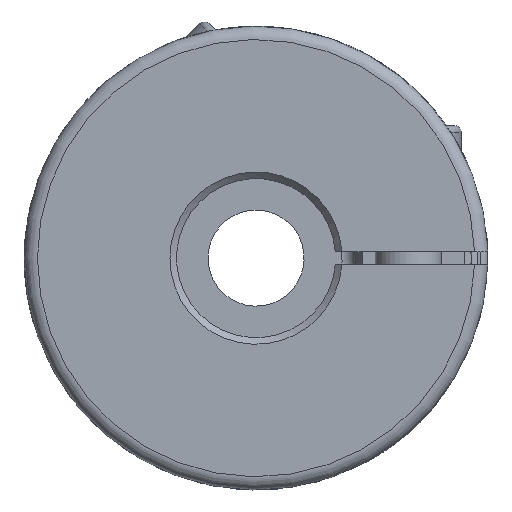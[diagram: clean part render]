
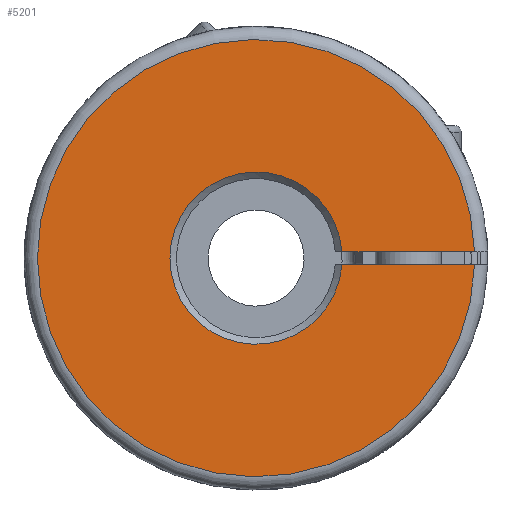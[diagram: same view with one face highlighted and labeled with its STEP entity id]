
A CAD part, left-side view. The second image highlights one B-rep face of the part: STEP entity #5201.
In plain terms, the highlighted planar face has unit normal (-1, 0, 0).
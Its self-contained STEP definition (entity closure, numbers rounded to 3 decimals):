
#16=LINE('',#7423,#168);
#23=LINE('',#7439,#175);
#168=VECTOR('',#6011,1000.);
#175=VECTOR('',#6020,1000.);
#329=PLANE('',#5489);
#529=CIRCLE('',#5380,33.);
#534=CIRCLE('',#5388,13.);
#1040=ORIENTED_EDGE('',*,*,#2026,.T.);
#1041=ORIENTED_EDGE('',*,*,#1949,.T.);
#1042=ORIENTED_EDGE('',*,*,#2018,.T.);
#1043=ORIENTED_EDGE('',*,*,#1959,.F.);
#1949=EDGE_CURVE('',#2521,#2523,#529,.T.);
#1959=EDGE_CURVE('',#2532,#2534,#534,.T.);
#2018=EDGE_CURVE('',#2523,#2534,#16,.T.);
#2026=EDGE_CURVE('',#2532,#2521,#23,.T.);
#2521=VERTEX_POINT('',#7007);
#2523=VERTEX_POINT('',#7015);
#2532=VERTEX_POINT('',#7054);
#2534=VERTEX_POINT('',#7057);
#3112=EDGE_LOOP('',(#1040,#1041,#1042,#1043));
#3390=FACE_BOUND('',#3112,.T.);
#5201=ADVANCED_FACE('',(#3390),#329,.T.);
#5380=AXIS2_PLACEMENT_3D('',#7016,#5873,#5874);
#5388=AXIS2_PLACEMENT_3D('',#7056,#5889,#5890);
#5489=AXIS2_PLACEMENT_3D('',#7635,#6135,#6136);
#5873=DIRECTION('',(-1.,0.,0.));
#5874=DIRECTION('',(0.,0.,1.));
#5889=DIRECTION('',(-1.,0.,0.));
#5890=DIRECTION('',(0.,0.,1.));
#6011=DIRECTION('',(0.,1.,0.));
#6020=DIRECTION('',(0.,-1.,0.));
#6135=DIRECTION('',(-1.,0.,0.));
#6136=DIRECTION('',(0.,0.,1.));
#7007=CARTESIAN_POINT('',(0.,-32.985,1.));
#7015=CARTESIAN_POINT('',(0.,-32.985,-1.));
#7016=CARTESIAN_POINT('',(0.,0.,0.));
#7054=CARTESIAN_POINT('',(0.,-12.961,1.));
#7056=CARTESIAN_POINT('',(0.,0.,0.));
#7057=CARTESIAN_POINT('',(0.,-12.961,-1.));
#7423=CARTESIAN_POINT('',(0.,-34.986,-1.));
#7439=CARTESIAN_POINT('',(0.,-11.958,1.));
#7635=CARTESIAN_POINT('',(0.,0.,12.));
